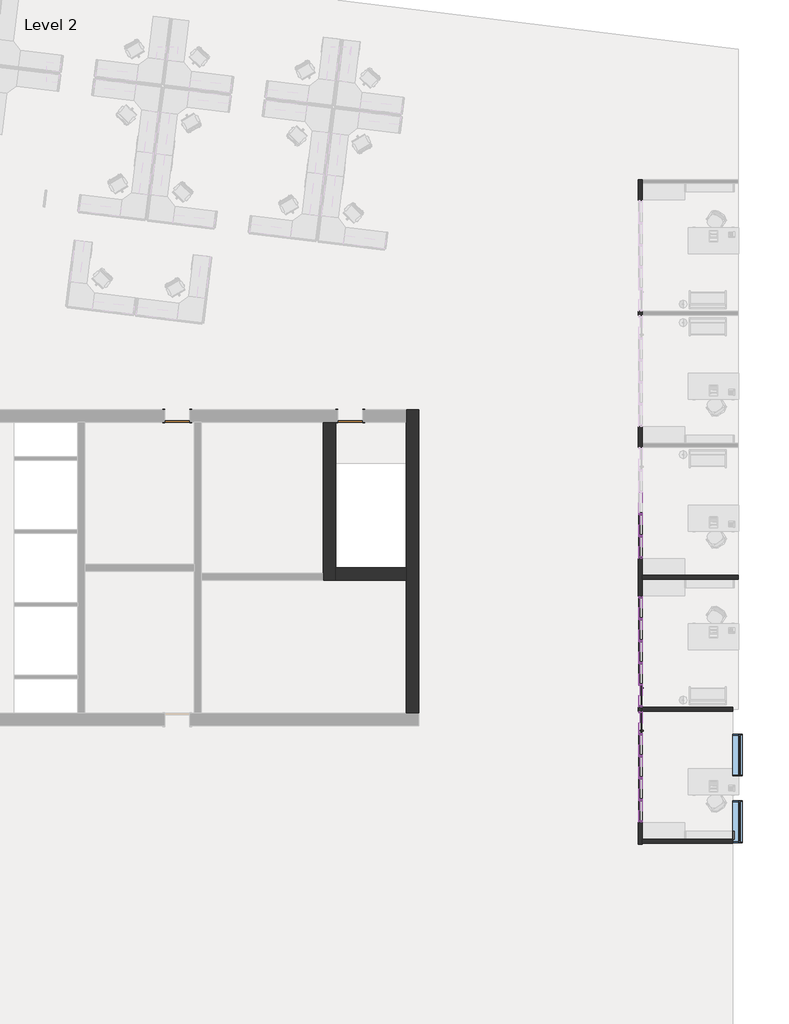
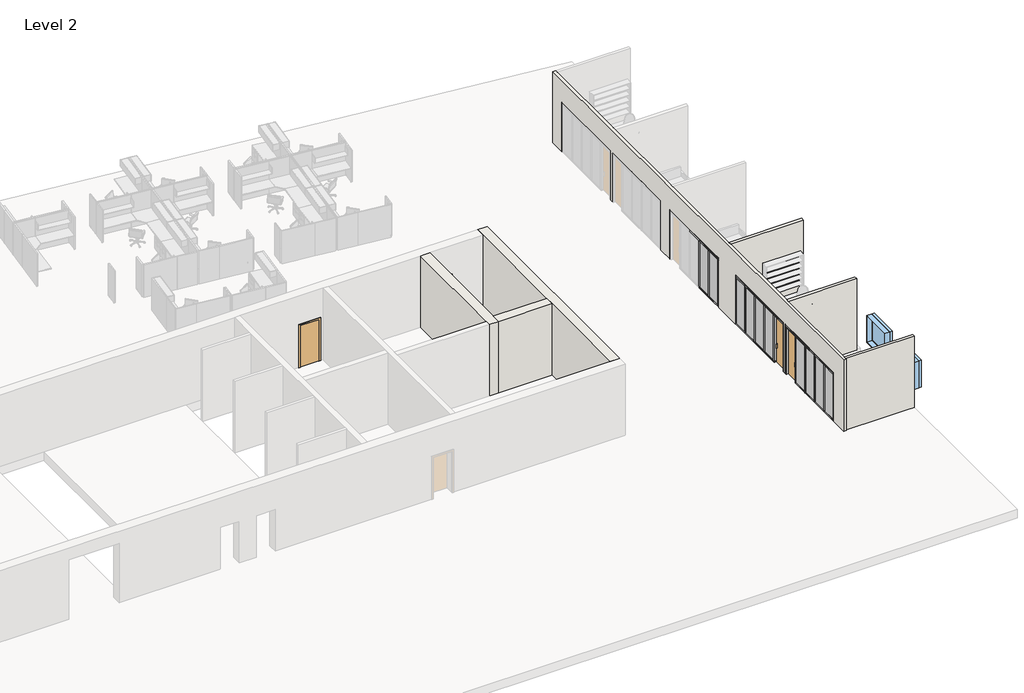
# One storey, part 2 of 6: 66 members, 22 plates, 8 walls, 4 doors, 2 windows.
"""IFC4 building model written with IfcOpenShell, lengths in millimetres."""

from ifc_helpers import new_model, si_unit, frame, origin, place, context, project, spatial, polyline, outline, extrude, faceted_brep, transform, mapped, element, save
from components import curtain_wall_sgl_glass_curtain_wall_sgl_glass_683140d0, curtain_wall_sgl_glass_curtain_wall_sgl_glass_5192a5a3, door_3c99239a, door_aec9db07, member_9597caa3, member_b2bde9e6, member_ee409385, member_7ffbafd8, member_47ea2df9, member_5507c937, member_0e55f5ff, member_6d48148e, member_7899ddbe, system_panel_glazed_8093bbd9, system_panel_glazed_f9de1280, system_panel_glazed_6896c6c0, system_panel_glazed_50fd444c, window_7a027cf8

model = new_model("IFC4")

# Units and contexts
model_context = context("Model", 3, world=origin())
ifc_project = project(units=[si_unit("LENGTHUNIT", "METRE", prefix="MILLI")], contexts=[model_context])

# Site, building, storey
site = spatial("IfcSite", under=ifc_project)
building = spatial("IfcBuilding", under=site)
storey = spatial("IfcBuildingStorey", under=building, Name="Level 2", Elevation=3657.6)

# Doors
placement = place(None, origin())
curtain_wall_sgl_glass_curtain_wall_sgl_glass_shape = curtain_wall_sgl_glass_curtain_wall_sgl_glass_683140d0(model_context)
element("IfcDoor", 1, ObjectType="Curtain Wall Sgl Glass : Curtain Wall Sgl Glass", at=placement, inside=storey, context=model_context, shape_type="MappedRepresentation", body=[
    mapped(curtain_wall_sgl_glass_curtain_wall_sgl_glass_shape, transform((11449.2054088, -14715.1428492, 3657.6), x_axis=(0.0, 1.0, 0.0), y_axis=(-1.0, 0.0, 0.0), z_axis=(0.0, 0.0, 1.0))),
])
curtain_wall_sgl_glass_curtain_wall_sgl_glass_2_shape = curtain_wall_sgl_glass_curtain_wall_sgl_glass_5192a5a3(model_context)
element("IfcDoor", 2, ObjectType="Curtain Wall Sgl Glass : Curtain Wall Sgl Glass", at=placement, inside=storey, context=model_context, shape_type="MappedRepresentation", body=[
    mapped(curtain_wall_sgl_glass_curtain_wall_sgl_glass_2_shape, transform((11449.2054088, -13709.3028492, 3657.6), x_axis=(0.0, -1.0, 0.0), y_axis=(1.0, 0.0, 0.0), z_axis=(0.0, 0.0, 1.0))),
])
door_shape = door_3c99239a(model_context)
element("IfcDoor", 3, ObjectType="Single-Flush : 36\" x 84\"", at=placement, inside=storey, context=model_context, shape_type="MappedRepresentation", body=[
    mapped(door_shape, transform((817.7000645, -3469.6103492, 3657.6), x_axis=(-1.0, 0.0, 0.0), y_axis=(0.0, -1.0, 0.0), z_axis=(0.0, 0.0, 1.0))),
])
door_2_shape = door_aec9db07(model_context)
element("IfcDoor", 4, ObjectType="Single-Flush : 36\" x 84\"", at=placement, inside=storey, context=model_context, shape_type="MappedRepresentation", body=[
    mapped(door_2_shape, transform((-5525.0427926, -3469.6103492, 3657.6), x_axis=(1.0, 0.0, 0.0), y_axis=(0.0, 1.0, 0.0), z_axis=(0.0, 0.0, 1.0))),
])

# Members
member_shape = member_9597caa3(model_context)
element("IfcMember", 5, ObjectType="Rectangular Mullion : 2.5\" x 5\" rectangular", at=placement, inside=storey, context=model_context, shape_type="MappedRepresentation", body=[
    mapped(member_shape, transform((11449.2054088, -13307.9828492, 3721.1), x_axis=(0.0, 1.0, 0.0), y_axis=(1.0, 0.0, 0.0), z_axis=(0.0, 0.0, -1.0))),
])
element("IfcMember", 6, ObjectType="Rectangular Mullion : 2.5\" x 5\" rectangular", at=placement, inside=storey, context=model_context, shape_type="MappedRepresentation", body=[
    mapped(member_shape, transform((11449.2054088, -12505.3428492, 3721.1), x_axis=(0.0, 1.0, 0.0), y_axis=(1.0, 0.0, 0.0), z_axis=(0.0, 0.0, -1.0))),
])
element("IfcMember", 7, ObjectType="Rectangular Mullion : 2.5\" x 5\" rectangular", at=placement, inside=storey, context=model_context, shape_type="MappedRepresentation", body=[
    mapped(member_shape, transform((11449.2054088, -11702.7028492, 3721.1), x_axis=(0.0, 1.0, 0.0), y_axis=(1.0, 0.0, 0.0), z_axis=(0.0, 0.0, -1.0))),
])
element("IfcMember", 8, ObjectType="Rectangular Mullion : 2.5\" x 5\" rectangular", at=placement, inside=storey, context=model_context, shape_type="MappedRepresentation", body=[
    mapped(member_shape, transform((11449.2054088, -10900.0628492, 3721.1), x_axis=(0.0, 1.0, 0.0), y_axis=(1.0, 0.0, 0.0), z_axis=(0.0, 0.0, -1.0))),
])
member_2_shape = member_b2bde9e6(model_context)
element("IfcMember", 9, ObjectType="Rectangular Mullion : 2.5\" x 5\" rectangular", at=placement, inside=storey, context=model_context, shape_type="MappedRepresentation", body=[
    mapped(member_2_shape, transform((11449.2054088, -10065.6728492, 3721.1), x_axis=(0.0, 1.0, 0.0), y_axis=(1.0, 0.0, 0.0), z_axis=(0.0, 0.0, -1.0))),
])
element("IfcMember", 10, ObjectType="Rectangular Mullion : 2.5\" x 5\" rectangular", at=placement, inside=storey, context=model_context, shape_type="MappedRepresentation", body=[
    mapped(member_shape, transform((11449.2054088, -7052.7342481, 3721.1), x_axis=(0.0, -1.0, 0.0), y_axis=(-1.0, 0.0, 0.0), z_axis=(0.0, 0.0, -1.0))),
])
element("IfcMember", 11, ObjectType="Rectangular Mullion : 2.5\" x 5\" rectangular", at=placement, inside=storey, context=model_context, shape_type="MappedRepresentation", body=[
    mapped(member_shape, transform((11449.2054088, -7855.3742481, 3721.1), x_axis=(0.0, -1.0, 0.0), y_axis=(-1.0, 0.0, 0.0), z_axis=(0.0, 0.0, -1.0))),
])
element("IfcMember", 12, ObjectType="Rectangular Mullion : 2.5\" x 5\" rectangular", at=placement, inside=storey, context=model_context, shape_type="MappedRepresentation", body=[
    mapped(member_shape, transform((11449.2054088, -15116.4628492, 3721.1), x_axis=(0.0, -1.0, 0.0), y_axis=(-1.0, 0.0, 0.0), z_axis=(0.0, 0.0, -1.0))),
])
element("IfcMember", 13, ObjectType="Rectangular Mullion : 2.5\" x 5\" rectangular", at=placement, inside=storey, context=model_context, shape_type="MappedRepresentation", body=[
    mapped(member_shape, transform((11449.2054088, -15919.1028492, 3721.1), x_axis=(0.0, -1.0, 0.0), y_axis=(-1.0, 0.0, 0.0), z_axis=(0.0, 0.0, -1.0))),
])
element("IfcMember", 14, ObjectType="Rectangular Mullion : 2.5\" x 5\" rectangular", at=placement, inside=storey, context=model_context, shape_type="MappedRepresentation", body=[
    mapped(member_shape, transform((11449.2054088, -16721.7428492, 3721.1), x_axis=(0.0, -1.0, 0.0), y_axis=(-1.0, 0.0, 0.0), z_axis=(0.0, 0.0, -1.0))),
])
element("IfcMember", 15, ObjectType="Rectangular Mullion : 2.5\" x 5\" rectangular", at=placement, inside=storey, context=model_context, shape_type="MappedRepresentation", body=[
    mapped(member_shape, transform((11449.2054088, -17524.3828492, 3721.1), x_axis=(0.0, -1.0, 0.0), y_axis=(-1.0, 0.0, 0.0), z_axis=(0.0, 0.0, -1.0))),
])
element("IfcMember", 16, ObjectType="Rectangular Mullion : 2.5\" x 5\" rectangular", at=placement, inside=storey, context=model_context, shape_type="MappedRepresentation", body=[
    mapped(member_2_shape, transform((11449.2054088, -8689.7642481, 3721.1), x_axis=(0.0, -1.0, 0.0), y_axis=(-1.0, 0.0, 0.0), z_axis=(0.0, 0.0, -1.0))),
])
element("IfcMember", 17, ObjectType="Rectangular Mullion : 2.5\" x 5\" rectangular", at=placement, inside=storey, context=model_context, shape_type="MappedRepresentation", body=[
    mapped(member_2_shape, transform((11449.2054088, -18358.7728492, 3721.1), x_axis=(0.0, -1.0, 0.0), y_axis=(-1.0, 0.0, 0.0), z_axis=(0.0, 0.0, -1.0))),
])
member_3_shape = member_ee409385(model_context)
element("IfcMember", 18, ObjectType="Rectangular Mullion : 2.5\" x 5\" rectangular", at=placement, inside=storey, context=model_context, shape_type="MappedRepresentation", body=[
    mapped(member_3_shape, transform((11449.2054088, -14142.3728492, 6096.0), x_axis=(0.0, -1.0, 0.0), y_axis=(1.0, 0.0, 0.0), z_axis=(0.0, 0.0, 1.0))),
])
member_4_shape = member_7ffbafd8(model_context)
element("IfcMember", 19, ObjectType="Rectangular Mullion : 2.5\" x 5\" rectangular", at=placement, inside=storey, context=model_context, shape_type="MappedRepresentation", body=[
    mapped(member_4_shape, transform((11449.2054088, -8689.7642481, 6197.6), x_axis=(0.0, 0.0, 1.0), y_axis=(-1.0, 0.0, 0.0), z_axis=(0.0, -1.0, 0.0))),
])
element("IfcMember", 20, ObjectType="Rectangular Mullion : 2.5\" x 5\" rectangular", at=placement, inside=storey, context=model_context, shape_type="MappedRepresentation", body=[
    mapped(member_4_shape, transform((11449.2054088, -18358.7728492, 6197.6), x_axis=(0.0, 0.0, 1.0), y_axis=(-1.0, 0.0, 0.0), z_axis=(0.0, -1.0, 0.0))),
])
element("IfcMember", 21, ObjectType="Rectangular Mullion : 2.5\" x 5\" rectangular", at=placement, inside=storey, context=model_context, shape_type="MappedRepresentation", body=[
    mapped(member_4_shape, transform((11449.2054088, -15116.4628492, 6197.6), x_axis=(0.0, 0.0, 1.0), y_axis=(-1.0, 0.0, 0.0), z_axis=(0.0, -1.0, 0.0))),
])
element("IfcMember", 22, ObjectType="Rectangular Mullion : 2.5\" x 5\" rectangular", at=placement, inside=storey, context=model_context, shape_type="MappedRepresentation", body=[
    mapped(member_4_shape, transform((11449.2054088, -15084.7128492, 3657.6), x_axis=(0.0, 0.0, -1.0), y_axis=(-1.0, 0.0, 0.0), z_axis=(0.0, 1.0, 0.0))),
])
member_5_shape = member_47ea2df9(model_context)
element("IfcMember", 23, ObjectType="Rectangular Mullion : 2.5\" x 5\" rectangular", at=placement, inside=storey, context=model_context, shape_type="MappedRepresentation", body=[
    mapped(member_5_shape, transform((11449.2054088, -7052.7342481, 6096.0), x_axis=(0.0, 0.0, 1.0), y_axis=(-1.0, 0.0, 0.0), z_axis=(0.0, -1.0, 0.0))),
])
element("IfcMember", 24, ObjectType="Rectangular Mullion : 2.5\" x 5\" rectangular", at=placement, inside=storey, context=model_context, shape_type="MappedRepresentation", body=[
    mapped(member_5_shape, transform((11449.2054088, -7855.3742481, 6096.0), x_axis=(0.0, 0.0, 1.0), y_axis=(-1.0, 0.0, 0.0), z_axis=(0.0, -1.0, 0.0))),
])
element("IfcMember", 25, ObjectType="Rectangular Mullion : 2.5\" x 5\" rectangular", at=placement, inside=storey, context=model_context, shape_type="MappedRepresentation", body=[
    mapped(member_5_shape, transform((11449.2054088, -15919.1028492, 6096.0), x_axis=(0.0, 0.0, 1.0), y_axis=(-1.0, 0.0, 0.0), z_axis=(0.0, -1.0, 0.0))),
])
element("IfcMember", 26, ObjectType="Rectangular Mullion : 2.5\" x 5\" rectangular", at=placement, inside=storey, context=model_context, shape_type="MappedRepresentation", body=[
    mapped(member_5_shape, transform((11449.2054088, -16721.7428492, 6096.0), x_axis=(0.0, 0.0, 1.0), y_axis=(-1.0, 0.0, 0.0), z_axis=(0.0, -1.0, 0.0))),
])
element("IfcMember", 27, ObjectType="Rectangular Mullion : 2.5\" x 5\" rectangular", at=placement, inside=storey, context=model_context, shape_type="MappedRepresentation", body=[
    mapped(member_5_shape, transform((11449.2054088, -17524.3828492, 6096.0), x_axis=(0.0, 0.0, 1.0), y_axis=(-1.0, 0.0, 0.0), z_axis=(0.0, -1.0, 0.0))),
])
member_6_shape = member_5507c937(model_context)
element("IfcMember", 28, ObjectType="Rectangular Mullion : 2.5\" x 5\" rectangular", at=placement, inside=storey, context=model_context, shape_type="MappedRepresentation", body=[
    mapped(member_6_shape, transform((11449.2054088, -7052.7342481, 6197.6), x_axis=(0.0, 0.0, 1.0), y_axis=(-1.0, 0.0, 0.0), z_axis=(0.0, -1.0, 0.0))),
])
element("IfcMember", 29, ObjectType="Rectangular Mullion : 2.5\" x 5\" rectangular", at=placement, inside=storey, context=model_context, shape_type="MappedRepresentation", body=[
    mapped(member_6_shape, transform((11449.2054088, -7855.3742481, 6197.6), x_axis=(0.0, 0.0, 1.0), y_axis=(-1.0, 0.0, 0.0), z_axis=(0.0, -1.0, 0.0))),
])
element("IfcMember", 30, ObjectType="Rectangular Mullion : 2.5\" x 5\" rectangular", at=placement, inside=storey, context=model_context, shape_type="MappedRepresentation", body=[
    mapped(member_6_shape, transform((11449.2054088, -15919.1028492, 6197.6), x_axis=(0.0, 0.0, 1.0), y_axis=(-1.0, 0.0, 0.0), z_axis=(0.0, -1.0, 0.0))),
])
element("IfcMember", 31, ObjectType="Rectangular Mullion : 2.5\" x 5\" rectangular", at=placement, inside=storey, context=model_context, shape_type="MappedRepresentation", body=[
    mapped(member_6_shape, transform((11449.2054088, -16721.7428492, 6197.6), x_axis=(0.0, 0.0, 1.0), y_axis=(-1.0, 0.0, 0.0), z_axis=(0.0, -1.0, 0.0))),
])
element("IfcMember", 32, ObjectType="Rectangular Mullion : 2.5\" x 5\" rectangular", at=placement, inside=storey, context=model_context, shape_type="MappedRepresentation", body=[
    mapped(member_6_shape, transform((11449.2054088, -17524.3828492, 6197.6), x_axis=(0.0, 0.0, 1.0), y_axis=(-1.0, 0.0, 0.0), z_axis=(0.0, -1.0, 0.0))),
])
element("IfcMember", 33, ObjectType="Rectangular Mullion : 2.5\" x 5\" rectangular", at=placement, inside=storey, context=model_context, shape_type="MappedRepresentation", body=[
    mapped(member_6_shape, transform((11449.2054088, -7052.7342481, 3657.6), x_axis=(0.0, 0.0, -1.0), y_axis=(-1.0, 0.0, 0.0), z_axis=(0.0, 1.0, 0.0))),
])
element("IfcMember", 34, ObjectType="Rectangular Mullion : 2.5\" x 5\" rectangular", at=placement, inside=storey, context=model_context, shape_type="MappedRepresentation", body=[
    mapped(member_6_shape, transform((11449.2054088, -15919.1028492, 3657.6), x_axis=(0.0, 0.0, -1.0), y_axis=(-1.0, 0.0, 0.0), z_axis=(0.0, 1.0, 0.0))),
])
element("IfcMember", 35, ObjectType="Rectangular Mullion : 2.5\" x 5\" rectangular", at=placement, inside=storey, context=model_context, shape_type="MappedRepresentation", body=[
    mapped(member_6_shape, transform((11449.2054088, -16721.7428492, 3657.6), x_axis=(0.0, 0.0, -1.0), y_axis=(-1.0, 0.0, 0.0), z_axis=(0.0, 1.0, 0.0))),
])
element("IfcMember", 36, ObjectType="Rectangular Mullion : 2.5\" x 5\" rectangular", at=placement, inside=storey, context=model_context, shape_type="MappedRepresentation", body=[
    mapped(member_4_shape, transform((11449.2054088, -7855.3742481, 3657.6), x_axis=(0.0, 0.0, -1.0), y_axis=(-1.0, 0.0, 0.0), z_axis=(0.0, 1.0, 0.0))),
])
element("IfcMember", 37, ObjectType="Rectangular Mullion : 2.5\" x 5\" rectangular", at=placement, inside=storey, context=model_context, shape_type="MappedRepresentation", body=[
    mapped(member_4_shape, transform((11449.2054088, -17524.3828492, 3657.6), x_axis=(0.0, 0.0, -1.0), y_axis=(-1.0, 0.0, 0.0), z_axis=(0.0, 1.0, 0.0))),
])
member_7_shape = member_0e55f5ff(model_context)
element("IfcMember", 38, ObjectType="Rectangular Mullion : 2.5\" x 5\" rectangular", at=placement, inside=storey, context=model_context, shape_type="MappedRepresentation", body=[
    mapped(member_7_shape, transform((11449.2054088, -8626.2642481, 6096.0), x_axis=(0.0, 0.0, 1.0), y_axis=(-1.0, 0.0, 0.0), z_axis=(0.0, -1.0, 0.0))),
])
element("IfcMember", 39, ObjectType="Rectangular Mullion : 2.5\" x 5\" rectangular", at=placement, inside=storey, context=model_context, shape_type="MappedRepresentation", body=[
    mapped(member_7_shape, transform((11449.2054088, -18295.2728492, 6096.0), x_axis=(0.0, 0.0, 1.0), y_axis=(-1.0, 0.0, 0.0), z_axis=(0.0, -1.0, 0.0))),
])
element("IfcMember", 40, ObjectType="Rectangular Mullion : 2.5\" x 5\" rectangular", at=placement, inside=storey, context=model_context, shape_type="MappedRepresentation", body=[
    mapped(member_7_shape, transform((11449.2054088, -15116.4628492, 6096.0), x_axis=(0.0, 0.0, 1.0), y_axis=(-1.0, 0.0, 0.0), z_axis=(0.0, -1.0, 0.0))),
])
element("IfcMember", 41, ObjectType="Rectangular Mullion : 2.5\" x 5\" rectangular", at=placement, inside=storey, context=model_context, shape_type="MappedRepresentation", body=[
    mapped(member_3_shape, transform((11449.2054088, -14282.0728492, 6096.0), x_axis=(0.0, 1.0, 0.0), y_axis=(-1.0, 0.0, 0.0), z_axis=(0.0, 0.0, 1.0))),
])
element("IfcMember", 42, ObjectType="Rectangular Mullion : 2.5\" x 5\" rectangular", at=placement, inside=storey, context=model_context, shape_type="MappedRepresentation", body=[
    mapped(member_4_shape, transform((11449.2054088, -10065.6728492, 6197.6), x_axis=(0.0, 0.0, 1.0), y_axis=(1.0, 0.0, 0.0), z_axis=(0.0, 1.0, 0.0))),
])
element("IfcMember", 43, ObjectType="Rectangular Mullion : 2.5\" x 5\" rectangular", at=placement, inside=storey, context=model_context, shape_type="MappedRepresentation", body=[
    mapped(member_4_shape, transform((11449.2054088, -13307.9828492, 6197.6), x_axis=(0.0, 0.0, 1.0), y_axis=(1.0, 0.0, 0.0), z_axis=(0.0, 1.0, 0.0))),
])
element("IfcMember", 44, ObjectType="Rectangular Mullion : 2.5\" x 5\" rectangular", at=placement, inside=storey, context=model_context, shape_type="MappedRepresentation", body=[
    mapped(member_4_shape, transform((11449.2054088, -13339.7328492, 3657.6), x_axis=(0.0, 0.0, -1.0), y_axis=(1.0, 0.0, 0.0), z_axis=(0.0, -1.0, 0.0))),
])
element("IfcMember", 45, ObjectType="Rectangular Mullion : 2.5\" x 5\" rectangular", at=placement, inside=storey, context=model_context, shape_type="MappedRepresentation", body=[
    mapped(member_5_shape, transform((11449.2054088, -12505.3428492, 6096.0), x_axis=(0.0, 0.0, 1.0), y_axis=(1.0, 0.0, 0.0), z_axis=(0.0, 1.0, 0.0))),
])
element("IfcMember", 46, ObjectType="Rectangular Mullion : 2.5\" x 5\" rectangular", at=placement, inside=storey, context=model_context, shape_type="MappedRepresentation", body=[
    mapped(member_5_shape, transform((11449.2054088, -11702.7028492, 6096.0), x_axis=(0.0, 0.0, 1.0), y_axis=(1.0, 0.0, 0.0), z_axis=(0.0, 1.0, 0.0))),
])
element("IfcMember", 47, ObjectType="Rectangular Mullion : 2.5\" x 5\" rectangular", at=placement, inside=storey, context=model_context, shape_type="MappedRepresentation", body=[
    mapped(member_5_shape, transform((11449.2054088, -10900.0628492, 6096.0), x_axis=(0.0, 0.0, 1.0), y_axis=(1.0, 0.0, 0.0), z_axis=(0.0, 1.0, 0.0))),
])
element("IfcMember", 48, ObjectType="Rectangular Mullion : 2.5\" x 5\" rectangular", at=placement, inside=storey, context=model_context, shape_type="MappedRepresentation", body=[
    mapped(member_6_shape, transform((11449.2054088, -12505.3428492, 6197.6), x_axis=(0.0, 0.0, 1.0), y_axis=(1.0, 0.0, 0.0), z_axis=(0.0, 1.0, 0.0))),
])
element("IfcMember", 49, ObjectType="Rectangular Mullion : 2.5\" x 5\" rectangular", at=placement, inside=storey, context=model_context, shape_type="MappedRepresentation", body=[
    mapped(member_6_shape, transform((11449.2054088, -11702.7028492, 6197.6), x_axis=(0.0, 0.0, 1.0), y_axis=(1.0, 0.0, 0.0), z_axis=(0.0, 1.0, 0.0))),
])
element("IfcMember", 50, ObjectType="Rectangular Mullion : 2.5\" x 5\" rectangular", at=placement, inside=storey, context=model_context, shape_type="MappedRepresentation", body=[
    mapped(member_6_shape, transform((11449.2054088, -10900.0628492, 6197.6), x_axis=(0.0, 0.0, 1.0), y_axis=(1.0, 0.0, 0.0), z_axis=(0.0, 1.0, 0.0))),
])
element("IfcMember", 51, ObjectType="Rectangular Mullion : 2.5\" x 5\" rectangular", at=placement, inside=storey, context=model_context, shape_type="MappedRepresentation", body=[
    mapped(member_6_shape, transform((11449.2054088, -12505.3428492, 3657.6), x_axis=(0.0, 0.0, -1.0), y_axis=(1.0, 0.0, 0.0), z_axis=(0.0, -1.0, 0.0))),
])
element("IfcMember", 52, ObjectType="Rectangular Mullion : 2.5\" x 5\" rectangular", at=placement, inside=storey, context=model_context, shape_type="MappedRepresentation", body=[
    mapped(member_6_shape, transform((11449.2054088, -11702.7028492, 3657.6), x_axis=(0.0, 0.0, -1.0), y_axis=(1.0, 0.0, 0.0), z_axis=(0.0, -1.0, 0.0))),
])
element("IfcMember", 53, ObjectType="Rectangular Mullion : 2.5\" x 5\" rectangular", at=placement, inside=storey, context=model_context, shape_type="MappedRepresentation", body=[
    mapped(member_4_shape, transform((11449.2054088, -10900.0628492, 3657.6), x_axis=(0.0, 0.0, -1.0), y_axis=(1.0, 0.0, 0.0), z_axis=(0.0, -1.0, 0.0))),
])
element("IfcMember", 54, ObjectType="Rectangular Mullion : 2.5\" x 5\" rectangular", at=placement, inside=storey, context=model_context, shape_type="MappedRepresentation", body=[
    mapped(member_7_shape, transform((11449.2054088, -10129.1728492, 6096.0), x_axis=(0.0, 0.0, 1.0), y_axis=(1.0, 0.0, 0.0), z_axis=(0.0, 1.0, 0.0))),
])
element("IfcMember", 55, ObjectType="Rectangular Mullion : 2.5\" x 5\" rectangular", at=placement, inside=storey, context=model_context, shape_type="MappedRepresentation", body=[
    mapped(member_7_shape, transform((11449.2054088, -13307.9828492, 6096.0), x_axis=(0.0, 0.0, 1.0), y_axis=(1.0, 0.0, 0.0), z_axis=(0.0, 1.0, 0.0))),
])
member_8_shape = member_6d48148e(model_context)
element("IfcMember", 56, ObjectType="Rectangular Mullion : 2.5\" x 5\" rectangular", at=placement, inside=storey, context=model_context, shape_type="MappedRepresentation", body=[
    mapped(member_8_shape, transform((11449.2054088, -13307.9828492, 6127.75), x_axis=(0.0, 1.0, 0.0), y_axis=(1.0, 0.0, 0.0), z_axis=(0.0, 0.0, -1.0))),
])
element("IfcMember", 57, ObjectType="Rectangular Mullion : 2.5\" x 5\" rectangular", at=placement, inside=storey, context=model_context, shape_type="MappedRepresentation", body=[
    mapped(member_8_shape, transform((11449.2054088, -12505.3428492, 6127.75), x_axis=(0.0, 1.0, 0.0), y_axis=(1.0, 0.0, 0.0), z_axis=(0.0, 0.0, -1.0))),
])
element("IfcMember", 58, ObjectType="Rectangular Mullion : 2.5\" x 5\" rectangular", at=placement, inside=storey, context=model_context, shape_type="MappedRepresentation", body=[
    mapped(member_8_shape, transform((11449.2054088, -11702.7028492, 6127.75), x_axis=(0.0, 1.0, 0.0), y_axis=(1.0, 0.0, 0.0), z_axis=(0.0, 0.0, -1.0))),
])
element("IfcMember", 59, ObjectType="Rectangular Mullion : 2.5\" x 5\" rectangular", at=placement, inside=storey, context=model_context, shape_type="MappedRepresentation", body=[
    mapped(member_8_shape, transform((11449.2054088, -10900.0628492, 6127.75), x_axis=(0.0, 1.0, 0.0), y_axis=(1.0, 0.0, 0.0), z_axis=(0.0, 0.0, -1.0))),
])
member_9_shape = member_7899ddbe(model_context)
element("IfcMember", 60, ObjectType="Rectangular Mullion : 2.5\" x 5\" rectangular", at=placement, inside=storey, context=model_context, shape_type="MappedRepresentation", body=[
    mapped(member_9_shape, transform((11449.2054088, -10065.6728492, 6096.0), x_axis=(0.0, 1.0, 0.0), y_axis=(1.0, 0.0, 0.0), z_axis=(0.0, 0.0, -1.0))),
])
element("IfcMember", 61, ObjectType="Rectangular Mullion : 2.5\" x 5\" rectangular", at=placement, inside=storey, context=model_context, shape_type="MappedRepresentation", body=[
    mapped(member_9_shape, transform((11449.2054088, -14142.3728492, 6134.1), x_axis=(0.0, -1.0, 0.0), y_axis=(1.0, 0.0, 0.0), z_axis=(0.0, 0.0, 1.0))),
])
element("IfcMember", 62, ObjectType="Rectangular Mullion : 2.5\" x 5\" rectangular", at=placement, inside=storey, context=model_context, shape_type="MappedRepresentation", body=[
    mapped(member_8_shape, transform((11449.2054088, -7052.7342481, 6127.75), x_axis=(0.0, -1.0, 0.0), y_axis=(-1.0, 0.0, 0.0), z_axis=(0.0, 0.0, -1.0))),
])
element("IfcMember", 63, ObjectType="Rectangular Mullion : 2.5\" x 5\" rectangular", at=placement, inside=storey, context=model_context, shape_type="MappedRepresentation", body=[
    mapped(member_8_shape, transform((11449.2054088, -7855.3742481, 6127.75), x_axis=(0.0, -1.0, 0.0), y_axis=(-1.0, 0.0, 0.0), z_axis=(0.0, 0.0, -1.0))),
])
element("IfcMember", 64, ObjectType="Rectangular Mullion : 2.5\" x 5\" rectangular", at=placement, inside=storey, context=model_context, shape_type="MappedRepresentation", body=[
    mapped(member_8_shape, transform((11449.2054088, -15116.4628492, 6127.75), x_axis=(0.0, -1.0, 0.0), y_axis=(-1.0, 0.0, 0.0), z_axis=(0.0, 0.0, -1.0))),
])
element("IfcMember", 65, ObjectType="Rectangular Mullion : 2.5\" x 5\" rectangular", at=placement, inside=storey, context=model_context, shape_type="MappedRepresentation", body=[
    mapped(member_8_shape, transform((11449.2054088, -15919.1028492, 6127.75), x_axis=(0.0, -1.0, 0.0), y_axis=(-1.0, 0.0, 0.0), z_axis=(0.0, 0.0, -1.0))),
])
element("IfcMember", 66, ObjectType="Rectangular Mullion : 2.5\" x 5\" rectangular", at=placement, inside=storey, context=model_context, shape_type="MappedRepresentation", body=[
    mapped(member_8_shape, transform((11449.2054088, -16721.7428492, 6127.75), x_axis=(0.0, -1.0, 0.0), y_axis=(-1.0, 0.0, 0.0), z_axis=(0.0, 0.0, -1.0))),
])
element("IfcMember", 67, ObjectType="Rectangular Mullion : 2.5\" x 5\" rectangular", at=placement, inside=storey, context=model_context, shape_type="MappedRepresentation", body=[
    mapped(member_8_shape, transform((11449.2054088, -17524.3828492, 6127.75), x_axis=(0.0, -1.0, 0.0), y_axis=(-1.0, 0.0, 0.0), z_axis=(0.0, 0.0, -1.0))),
])
element("IfcMember", 68, ObjectType="Rectangular Mullion : 2.5\" x 5\" rectangular", at=placement, inside=storey, context=model_context, shape_type="MappedRepresentation", body=[
    mapped(member_9_shape, transform((11449.2054088, -8689.7642481, 6096.0), x_axis=(0.0, -1.0, 0.0), y_axis=(-1.0, 0.0, 0.0), z_axis=(0.0, 0.0, -1.0))),
])
element("IfcMember", 69, ObjectType="Rectangular Mullion : 2.5\" x 5\" rectangular", at=placement, inside=storey, context=model_context, shape_type="MappedRepresentation", body=[
    mapped(member_9_shape, transform((11449.2054088, -18358.7728492, 6096.0), x_axis=(0.0, -1.0, 0.0), y_axis=(-1.0, 0.0, 0.0), z_axis=(0.0, 0.0, -1.0))),
])
element("IfcMember", 70, ObjectType="Rectangular Mullion : 2.5\" x 5\" rectangular", at=placement, inside=storey, context=model_context, shape_type="MappedRepresentation", body=[
    mapped(member_9_shape, transform((11449.2054088, -14282.0728492, 6134.1), x_axis=(0.0, 1.0, 0.0), y_axis=(-1.0, 0.0, 0.0), z_axis=(0.0, 0.0, 1.0))),
])

# Plates
system_panel_glazed_shape = system_panel_glazed_8093bbd9(model_context)
element("IfcPlate", 71, ObjectType="System Panel : Glazed", at=placement, inside=storey, context=model_context, shape_type="MappedRepresentation", body=[
    mapped(system_panel_glazed_shape, transform((11449.2054088, -7454.0542481, 3721.1), x_axis=(0.0, -1.0, 0.0), y_axis=(1.0, 0.0, 0.0), z_axis=(0.0, 0.0, 1.0))),
])
element("IfcPlate", 72, ObjectType="System Panel : Glazed", at=placement, inside=storey, context=model_context, shape_type="MappedRepresentation", body=[
    mapped(system_panel_glazed_shape, transform((11449.2054088, -8256.6942481, 3721.1), x_axis=(0.0, -1.0, 0.0), y_axis=(1.0, 0.0, 0.0), z_axis=(0.0, 0.0, 1.0))),
])
element("IfcPlate", 73, ObjectType="System Panel : Glazed", at=placement, inside=storey, context=model_context, shape_type="MappedRepresentation", body=[
    mapped(system_panel_glazed_shape, transform((11449.2054088, -15517.7828492, 3721.1), x_axis=(0.0, -1.0, 0.0), y_axis=(1.0, 0.0, 0.0), z_axis=(0.0, 0.0, 1.0))),
])
element("IfcPlate", 74, ObjectType="System Panel : Glazed", at=placement, inside=storey, context=model_context, shape_type="MappedRepresentation", body=[
    mapped(system_panel_glazed_shape, transform((11449.2054088, -16320.4228492, 3721.1), x_axis=(0.0, -1.0, 0.0), y_axis=(1.0, 0.0, 0.0), z_axis=(0.0, 0.0, 1.0))),
])
element("IfcPlate", 75, ObjectType="System Panel : Glazed", at=placement, inside=storey, context=model_context, shape_type="MappedRepresentation", body=[
    mapped(system_panel_glazed_shape, transform((11449.2054088, -17123.0628492, 3721.1), x_axis=(0.0, -1.0, 0.0), y_axis=(1.0, 0.0, 0.0), z_axis=(0.0, 0.0, 1.0))),
])
element("IfcPlate", 76, ObjectType="System Panel : Glazed", at=placement, inside=storey, context=model_context, shape_type="MappedRepresentation", body=[
    mapped(system_panel_glazed_shape, transform((11449.2054088, -17925.7028492, 3721.1), x_axis=(0.0, -1.0, 0.0), y_axis=(1.0, 0.0, 0.0), z_axis=(0.0, 0.0, 1.0))),
])
system_panel_glazed_2_shape = system_panel_glazed_f9de1280(model_context)
element("IfcPlate", 77, ObjectType="System Panel : Glazed", at=placement, inside=storey, context=model_context, shape_type="MappedRepresentation", body=[
    mapped(system_panel_glazed_2_shape, transform((11449.2054088, -12906.6628492, 3721.1), x_axis=(0.0, 1.0, 0.0), y_axis=(-1.0, 0.0, 0.0), z_axis=(0.0, 0.0, 1.0))),
])
element("IfcPlate", 78, ObjectType="System Panel : Glazed", at=placement, inside=storey, context=model_context, shape_type="MappedRepresentation", body=[
    mapped(system_panel_glazed_2_shape, transform((11449.2054088, -12104.0228492, 3721.1), x_axis=(0.0, 1.0, 0.0), y_axis=(-1.0, 0.0, 0.0), z_axis=(0.0, 0.0, 1.0))),
])
element("IfcPlate", 79, ObjectType="System Panel : Glazed", at=placement, inside=storey, context=model_context, shape_type="MappedRepresentation", body=[
    mapped(system_panel_glazed_2_shape, transform((11449.2054088, -11301.3828492, 3721.1), x_axis=(0.0, 1.0, 0.0), y_axis=(-1.0, 0.0, 0.0), z_axis=(0.0, 0.0, 1.0))),
])
element("IfcPlate", 80, ObjectType="System Panel : Glazed", at=placement, inside=storey, context=model_context, shape_type="MappedRepresentation", body=[
    mapped(system_panel_glazed_2_shape, transform((11449.2054088, -10498.7428492, 3721.1), x_axis=(0.0, 1.0, 0.0), y_axis=(-1.0, 0.0, 0.0), z_axis=(0.0, 0.0, 1.0))),
])
system_panel_glazed_3_shape = system_panel_glazed_6896c6c0(model_context)
element("IfcPlate", 81, ObjectType="System Panel : Glazed", at=placement, inside=storey, context=model_context, shape_type="MappedRepresentation", body=[
    mapped(system_panel_glazed_3_shape, transform((11449.2054088, -13709.3028492, 6127.75), x_axis=(0.0, 1.0, 0.0), y_axis=(-1.0, 0.0, 0.0), z_axis=(0.0, 0.0, 1.0))),
])
element("IfcPlate", 82, ObjectType="System Panel : Glazed", at=placement, inside=storey, context=model_context, shape_type="MappedRepresentation", body=[
    mapped(system_panel_glazed_3_shape, transform((11449.2054088, -12906.6628492, 6127.75), x_axis=(0.0, 1.0, 0.0), y_axis=(-1.0, 0.0, 0.0), z_axis=(0.0, 0.0, 1.0))),
])
element("IfcPlate", 83, ObjectType="System Panel : Glazed", at=placement, inside=storey, context=model_context, shape_type="MappedRepresentation", body=[
    mapped(system_panel_glazed_3_shape, transform((11449.2054088, -12104.0228492, 6127.75), x_axis=(0.0, 1.0, 0.0), y_axis=(-1.0, 0.0, 0.0), z_axis=(0.0, 0.0, 1.0))),
])
element("IfcPlate", 84, ObjectType="System Panel : Glazed", at=placement, inside=storey, context=model_context, shape_type="MappedRepresentation", body=[
    mapped(system_panel_glazed_3_shape, transform((11449.2054088, -11301.3828492, 6127.75), x_axis=(0.0, 1.0, 0.0), y_axis=(-1.0, 0.0, 0.0), z_axis=(0.0, 0.0, 1.0))),
])
element("IfcPlate", 85, ObjectType="System Panel : Glazed", at=placement, inside=storey, context=model_context, shape_type="MappedRepresentation", body=[
    mapped(system_panel_glazed_3_shape, transform((11449.2054088, -10498.7428492, 6127.75), x_axis=(0.0, 1.0, 0.0), y_axis=(-1.0, 0.0, 0.0), z_axis=(0.0, 0.0, 1.0))),
])
system_panel_glazed_4_shape = system_panel_glazed_50fd444c(model_context)
element("IfcPlate", 86, ObjectType="System Panel : Glazed", at=placement, inside=storey, context=model_context, shape_type="MappedRepresentation", body=[
    mapped(system_panel_glazed_4_shape, transform((11449.2054088, -7454.0542481, 6127.75), x_axis=(0.0, -1.0, 0.0), y_axis=(1.0, 0.0, 0.0), z_axis=(0.0, 0.0, 1.0))),
])
element("IfcPlate", 87, ObjectType="System Panel : Glazed", at=placement, inside=storey, context=model_context, shape_type="MappedRepresentation", body=[
    mapped(system_panel_glazed_4_shape, transform((11449.2054088, -8256.6942481, 6127.75), x_axis=(0.0, -1.0, 0.0), y_axis=(1.0, 0.0, 0.0), z_axis=(0.0, 0.0, 1.0))),
])
element("IfcPlate", 88, ObjectType="System Panel : Glazed", at=placement, inside=storey, context=model_context, shape_type="MappedRepresentation", body=[
    mapped(system_panel_glazed_4_shape, transform((11449.2054088, -14715.1428492, 6127.75), x_axis=(0.0, -1.0, 0.0), y_axis=(1.0, 0.0, 0.0), z_axis=(0.0, 0.0, 1.0))),
])
element("IfcPlate", 89, ObjectType="System Panel : Glazed", at=placement, inside=storey, context=model_context, shape_type="MappedRepresentation", body=[
    mapped(system_panel_glazed_4_shape, transform((11449.2054088, -15517.7828492, 6127.75), x_axis=(0.0, -1.0, 0.0), y_axis=(1.0, 0.0, 0.0), z_axis=(0.0, 0.0, 1.0))),
])
element("IfcPlate", 90, ObjectType="System Panel : Glazed", at=placement, inside=storey, context=model_context, shape_type="MappedRepresentation", body=[
    mapped(system_panel_glazed_4_shape, transform((11449.2054088, -16320.4228492, 6127.75), x_axis=(0.0, -1.0, 0.0), y_axis=(1.0, 0.0, 0.0), z_axis=(0.0, 0.0, 1.0))),
])
element("IfcPlate", 91, ObjectType="System Panel : Glazed", at=placement, inside=storey, context=model_context, shape_type="MappedRepresentation", body=[
    mapped(system_panel_glazed_4_shape, transform((11449.2054088, -17123.0628492, 6127.75), x_axis=(0.0, -1.0, 0.0), y_axis=(1.0, 0.0, 0.0), z_axis=(0.0, 0.0, 1.0))),
])
element("IfcPlate", 92, ObjectType="System Panel : Glazed", at=placement, inside=storey, context=model_context, shape_type="MappedRepresentation", body=[
    mapped(system_panel_glazed_4_shape, transform((11449.2054088, -17925.7028492, 6127.75), x_axis=(0.0, -1.0, 0.0), y_axis=(1.0, 0.0, 0.0), z_axis=(0.0, 0.0, 1.0))),
])

# Walls
element("IfcWall", 93, ObjectType="Core-shaft 18\" Concrete", at=placement, inside=storey, context=model_context, shape_type="Brep", body=[
    faceted_brep([(2867.8429217, -3241.0103492, 3657.6), (2867.8429217, -3698.2103492, 3657.6), (2867.8429217, -9032.2103492, 3657.6), (2867.8429217, -9489.4103492, 3657.6), (2867.8429217, -14366.2103492, 3657.6), (2867.8429217, -14366.2103492, 7315.2), (2867.8429217, -9489.4103492, 7315.2), (2867.8429217, -9032.2103492, 7315.2), (2867.8429217, -3698.2103492, 7315.2), (2867.8429217, -3241.0103492, 7315.2), (3325.0429217, -3241.0103492, 3657.6), (3325.0429217, -3241.0103492, 7315.2), (3325.0429217, -14366.2103492, 7315.2), (3325.0429217, -14366.2103492, 3657.6)], [[[0, 1, 2, 3, 4, 5, 6, 7, 8, 9]], [[10, 11, 12, 13]], [[4, 3, 2, 1, 0, 10, 13]], [[9, 8, 7, 6, 5, 12, 11]], [[5, 4, 13, 12]], [[0, 9, 11, 10]]]),
])
element("IfcWall", 94, ObjectType="Core-shaft 18\" Concrete", at=placement, inside=storey, context=model_context, shape_type="Brep", body=[
    faceted_brep([(-172.8999355, -3698.2103492, 3657.6), (-172.8999355, -9235.4103492, 3657.6), (-172.8999355, -9489.4103492, 3657.6), (-172.8999355, -9489.4103492, 7315.2), (-172.8999355, -9235.4103492, 7315.2), (-172.8999355, -3698.2103492, 7315.2), (284.3000645, -3698.2103492, 3657.6), (284.3000645, -3698.2103492, 7315.2), (284.3000645, -9032.2103492, 7315.2), (284.3000645, -9489.4103492, 7315.2), (284.3000645, -9489.4103492, 3657.6), (284.3000645, -9032.2103492, 3657.6)], [[[0, 1, 2, 3, 4, 5]], [[6, 7, 8, 9, 10, 11]], [[2, 1, 0, 6, 11, 10]], [[5, 4, 3, 9, 8, 7]], [[3, 2, 10, 9]], [[0, 5, 7, 6]]]),
])
element("IfcWall", 95, ObjectType="Core-shaft 18\" Concrete", at=placement, inside=storey, context=model_context, shape_type="SweptSolid", body=[
    extrude(outline(polyline([(2867.8429217, -9489.4103492), (284.3000645, -9489.4103492), (284.3000645, -9032.2103492), (2867.8429217, -9032.2103492), (2867.8429217, -9489.4103492)])), frame((0.0, 0.0, 3657.6), z_axis=(0.0, 0.0, 1.0), x_axis=(1.0, 0.0, 0.0)), (0.0, 0.0, 1.0), 3657.6),
])
element("IfcWall", 96, ObjectType="Interior - 5 1/2\" Partition (1-hr)", at=placement, inside=storey, context=model_context, shape_type="Brep", body=[
    faceted_brep([(11519.0554088, 5195.6443531, 7315.2), (11519.0554088, 5055.9443531, 7315.2), (11519.0554088, 361.1400525, 7315.2), (11519.0554088, 221.4400525, 7315.2), (11519.0554088, -4473.3642481, 7315.2), (11519.0554088, -4613.0642481, 7315.2), (11519.0554088, -9307.8685486, 7315.2), (11519.0554088, -9447.5685486, 7315.2), (11519.0554088, -14142.3728492, 7315.2), (11519.0554088, -14282.0728492, 7315.2), (11519.0554088, -18976.8771498, 7315.2), (11519.0554088, -19116.5771498, 7315.2), (11519.0554088, -19165.2228492, 7315.2), (11519.0554088, -19165.2228492, 3657.6), (11519.0554088, -19116.5771498, 3657.6), (11519.0554088, -18976.8771498, 3657.6), (11519.0554088, -18358.7728492, 3657.6), (11519.0554088, -18358.7728492, 6197.6), (11519.0554088, -14282.0728492, 6197.6), (11519.0554088, -14282.0728492, 3657.6), (11519.0554088, -14142.3728492, 3657.6), (11519.0554088, -14142.3728492, 6197.6), (11519.0554088, -10065.6728492, 6197.6), (11519.0554088, -10065.6728492, 3657.6), (11519.0554088, -9447.5685486, 3657.6), (11519.0554088, -9307.8685486, 3657.6), (11519.0554088, -8689.7642481, 3657.6), (11519.0554088, -8689.7642481, 6197.6), (11519.0554088, -4613.0642481, 6197.6), (11519.0554088, -4613.0642481, 3657.6), (11519.0554088, -4473.3642481, 3657.6), (11519.0554088, -3855.2599475, 3657.6), (11519.0554088, -3855.2599475, 6197.6), (11519.0554088, 221.4400525, 6197.6), (11519.0554088, 221.4400525, 3657.6), (11519.0554088, 361.1400525, 3657.6), (11519.0554088, 361.1400525, 6197.6), (11519.0554088, 4437.8400525, 6197.6), (11519.0554088, 4437.8400525, 3657.6), (11519.0554088, 5055.9443531, 3657.6), (11519.0554088, 5195.6443531, 3657.6), (11379.3554088, -19165.2228492, 7315.2), (11379.3554088, 5195.6443531, 7315.2), (11379.3554088, 5195.6443531, 3657.6), (11379.3554088, 4437.8400525, 3657.6), (11379.3554088, 4437.8400525, 6197.6), (11379.3554088, 361.1400525, 6197.6), (11379.3554088, 361.1400525, 3657.6), (11379.3554088, 221.4400525, 3657.6), (11379.3554088, 221.4400525, 6197.6), (11379.3554088, -3855.2599475, 6197.6), (11379.3554088, -3855.2599475, 3657.6), (11379.3554088, -4613.0642481, 3657.6), (11379.3554088, -4613.0642481, 6197.6), (11379.3554088, -8689.7642481, 6197.6), (11379.3554088, -8689.7642481, 3657.6), (11379.3554088, -10065.6728492, 3657.6), (11379.3554088, -10065.6728492, 6197.6), (11379.3554088, -14142.3728492, 6197.6), (11379.3554088, -14142.3728492, 3657.6), (11379.3554088, -14282.0728492, 3657.6), (11379.3554088, -14282.0728492, 6197.6), (11379.3554088, -18358.7728492, 6197.6), (11379.3554088, -18358.7728492, 3657.6), (11379.3554088, -19165.2228492, 3657.6)], [[[0, 1, 2, 3, 4, 5, 6, 7, 8, 9, 10, 11, 12, 13, 14, 15, 16, 17, 18, 19, 20, 21, 22, 23, 24, 25, 26, 27, 28, 29, 30, 31, 32, 33, 34, 35, 36, 37, 38, 39, 40]], [[41, 42, 43, 44, 45, 46, 47, 48, 49, 50, 51, 52, 53, 54, 55, 56, 57, 58, 59, 60, 61, 62, 63, 64]], [[13, 64, 63, 16, 15, 14]], [[47, 35, 34, 48]], [[38, 44, 43, 40, 39]], [[51, 31, 30, 29, 52]], [[55, 26, 25, 24, 23, 56]], [[59, 20, 19, 60]], [[12, 11, 10, 9, 8, 7, 6, 5, 4, 3, 2, 1, 0, 42, 41]], [[13, 12, 41, 64]], [[36, 35, 47, 46]], [[38, 37, 45, 44]], [[34, 33, 49, 48]], [[32, 31, 51, 50]], [[29, 28, 53, 52]], [[27, 26, 55, 54]], [[21, 20, 59, 58]], [[23, 22, 57, 56]], [[18, 61, 60, 19]], [[62, 17, 16, 63]], [[0, 40, 43, 42]], [[49, 33, 32, 50]], [[45, 37, 36, 46]], [[27, 54, 53, 28]], [[57, 22, 21, 58]], [[17, 62, 61, 18]]]),
])
element("IfcWall", 97, ObjectType="Interior - 5 1/2\" Partition (1-hr)", at=placement, inside=storey, context=model_context, shape_type="SweptSolid", body=[
    extrude(outline(polyline([(11519.0554088, -9307.8685486), (15043.3054088, -9307.8685486), (15043.3054088, -9447.5685486), (11519.0554088, -9447.5685486), (11519.0554088, -9307.8685486)])), frame((0.0, 0.0, 3657.6), z_axis=(0.0, 0.0, 1.0), x_axis=(1.0, 0.0, 0.0)), (0.0, 0.0, 1.0), 3657.6),
])
element("IfcWall", 98, ObjectType="Interior - 5 1/2\" Partition (1-hr)", at=placement, inside=storey, context=model_context, shape_type="Brep", body=[
    faceted_brep([(14830.5804088, -14142.3728492, 3657.6), (11519.0554088, -14142.3728492, 3657.6), (11519.0554088, -14142.3728492, 6197.6), (11519.0554088, -14142.3728492, 7315.2), (14830.5804088, -14142.3728492, 7315.2), (14830.5804088, -14282.0728492, 3657.6), (14830.5804088, -14282.0728492, 7315.2), (11519.0554088, -14282.0728492, 7315.2), (11519.0554088, -14282.0728492, 6197.6), (11519.0554088, -14282.0728492, 3657.6)], [[[0, 1, 2, 3, 4]], [[5, 6, 7, 8, 9]], [[1, 0, 5, 9]], [[4, 3, 7, 6]], [[3, 2, 1, 9, 8, 7]], [[0, 4, 6, 5]]]),
])
element("IfcWall", 99, ObjectType="Interior - 5 1/2\" Partition (1-hr)", at=placement, inside=storey, context=model_context, shape_type="SweptSolid", body=[
    extrude(outline(polyline([(11519.0554088, -9307.8685486), (15043.3054088, -9307.8685486), (15043.3054088, -9447.5685486), (11519.0554088, -9447.5685486), (11519.0554088, -9307.8685486)])), frame((0.0, 0.0, 3657.6), z_axis=(0.0, 0.0, 1.0), x_axis=(1.0, 0.0, 0.0)), (0.0, 0.0, 1.0), 3657.6),
])
element("IfcWall", 100, ObjectType="Interior - 5 1/2\" Partition (1-hr)", at=placement, inside=storey, context=model_context, shape_type="SweptSolid", body=[
    extrude(outline(polyline([(11519.0554088, -18976.8771498), (14830.5804088, -18976.8771498), (14830.5804088, -19116.5771498), (11519.0554088, -19116.5771498), (11519.0554088, -18976.8771498)])), frame((0.0, 0.0, 3657.6), z_axis=(0.0, 0.0, 1.0), x_axis=(1.0, 0.0, 0.0)), (0.0, 0.0, 1.0), 3657.6),
])

# Windows
window_shape = window_7a027cf8(model_context)
element("IfcWindow", 101, ObjectType="Fixed : 60\" x 54\"", at=placement, inside=storey, context=model_context, shape_type="MappedRepresentation", body=[
    mapped(window_shape, transform((15006.7929088, -15933.0728492, 2743.2), x_axis=(0.0, -1.0, 0.0), y_axis=(1.0, 0.0, 0.0), z_axis=(0.0, 0.0, 1.0))),
])
element("IfcWindow", 102, ObjectType="Fixed : 60\" x 54\"", at=placement, inside=storey, context=model_context, shape_type="MappedRepresentation", body=[
    mapped(window_shape, transform((15006.7929088, -18371.4728492, 2743.2), x_axis=(0.0, -1.0, 0.0), y_axis=(1.0, 0.0, 0.0), z_axis=(0.0, 0.0, 1.0))),
])

save(model, "model.ifc")
